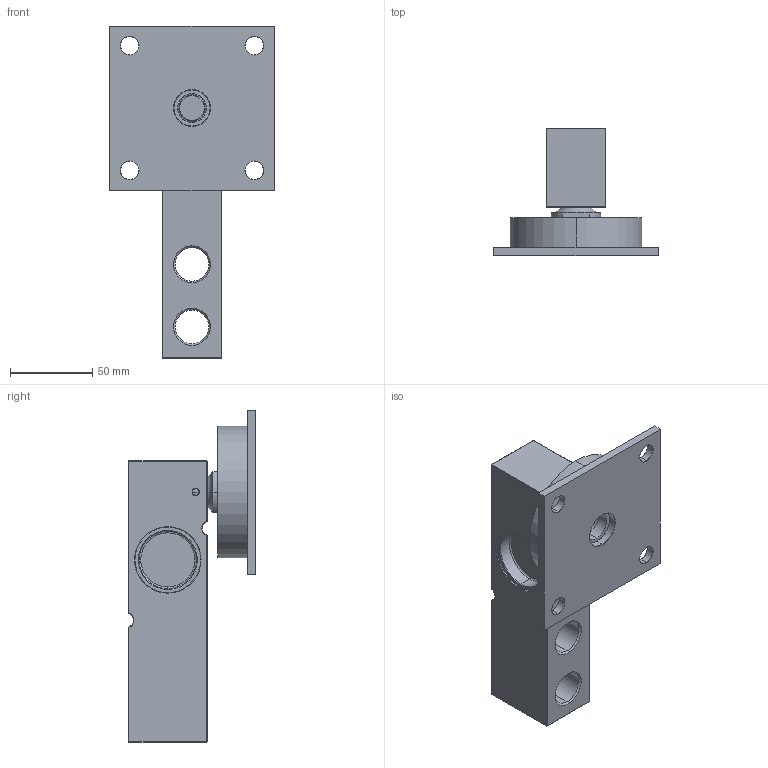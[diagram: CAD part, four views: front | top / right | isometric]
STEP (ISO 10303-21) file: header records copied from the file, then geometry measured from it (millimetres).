
FILE_DESCRIPTION (( 'STEP AP214' ), '1' );
FILE_NAME ('Soemer-EBH-SFM-3510-5t.STEP', '2024-02-02T09:18:03', ( '' ), ( '' ), 'SwSTEP 2.0', 'SolidWorks 2019', '' );
FILE_SCHEMA (( 'AUTOMOTIVE_DESIGN' ));
Length unit declared in the file: millimetre
Products named in the file (15): Soemer-EBH-SFM-3510-5t; EBH-SFM-3510-5t Grundplatte; EBH-SFM-3510-5t Einlageplatte unten; EBH-SFM-3510-5t Krafteinleitungskugelkopf; EBH-SFM-3510-5t Einlageplatte oben; 3510-3000, 5000kg-T; EBH-SFM-3510-5t Einlage Neopren; EBH-SFM-3510-5t Gummimantel
Assembly tree (7 placements, depth 2):
  Soemer-EBH-SFM-3510-5t
    EBH-SFM-3510-5t Grundplatte
    EBH-SFM-3510-5t Einlageplatte unten
    EBH-SFM-3510-5t Einlage Neopren
    EBH-SFM-3510-5t Einlageplatte oben
    EBH-SFM-3510-5t Gummimantel
    EBH-SFM-3510-5t Krafteinleitungskugelkopf
    3510-3000, 5000kg-T
  EBH-SFM-3510-5t Grundplatte
  EBH-SFM-3510-5t Einlageplatte oben
  EBH-SFM-3510-5t Krafteinleitungskugelkopf
  EBH-SFM-3510-5t Einlageplatte unten
Bounding box: 100 x 77.5 x 202.35 mm (x, y, z)
Volume: 380169.7 mm3; surface area: 107947 mm2
Topology: 7 solids, 7 shells, 181 faces, 398 edges, 238 vertices
Faces by surface type: cylinder 59, plane 58, cone 50, torus 12, sphere 2
Entity records: 5726 total; most frequent: CARTESIAN_POINT 1000, DIRECTION 961, ORIENTED_EDGE 796, EDGE_CURVE 398, AXIS2_PLACEMENT_3D 391, VERTEX_POINT 238, EDGE_LOOP 214, CIRCLE 199
